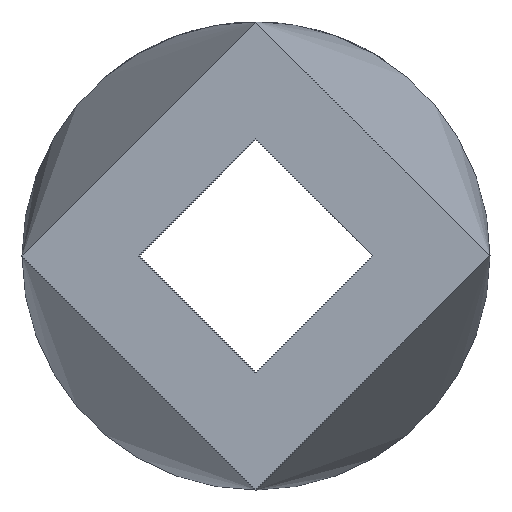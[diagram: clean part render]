
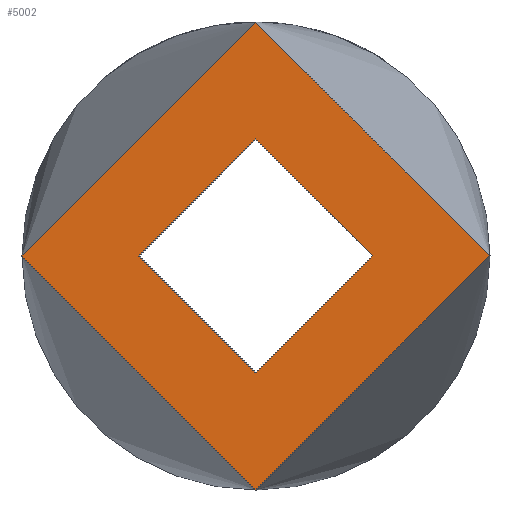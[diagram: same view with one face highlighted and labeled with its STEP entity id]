
A CAD part, left-side view. The second image highlights one B-rep face of the part: STEP entity #5002.
In plain terms, the highlighted planar face has unit normal (-1, 0, 0).
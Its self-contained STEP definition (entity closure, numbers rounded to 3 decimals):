
#114=PLANE('',#5389);
#532=CIRCLE('',#5388,5.);
#533=CIRCLE('',#5390,2.5);
#847=ORIENTED_EDGE('',*,*,#2359,.T.);
#848=ORIENTED_EDGE('',*,*,#2358,.F.);
#2358=EDGE_CURVE('',#3114,#3114,#532,.T.);
#2359=EDGE_CURVE('',#3115,#3115,#533,.T.);
#3114=VERTEX_POINT('',#7818);
#3115=VERTEX_POINT('',#7821);
#4269=EDGE_LOOP('',(#847));
#4270=EDGE_LOOP('',(#848));
#4630=FACE_BOUND('',#4269,.T.);
#4631=FACE_BOUND('',#4270,.T.);
#5002=ADVANCED_FACE('',(#4630,#4631),#114,.F.);
#5388=AXIS2_PLACEMENT_3D('',#7817,#5902,#5903);
#5389=AXIS2_PLACEMENT_3D('',#7819,#5904,#5905);
#5390=AXIS2_PLACEMENT_3D('',#7820,#5906,#5907);
#5902=DIRECTION('',(1.,0.,0.));
#5903=DIRECTION('',(0.,0.,-1.));
#5904=DIRECTION('',(1.,0.,0.));
#5905=DIRECTION('',(0.,0.,-1.));
#5906=DIRECTION('',(1.,0.,0.));
#5907=DIRECTION('',(0.,0.,-1.));
#7817=CARTESIAN_POINT('',(-14.,0.,0.));
#7818=CARTESIAN_POINT('',(-14.,0.,-5.));
#7819=CARTESIAN_POINT('',(-14.,0.,0.));
#7820=CARTESIAN_POINT('',(-14.,0.,0.));
#7821=CARTESIAN_POINT('',(-14.,0.,-2.5));
